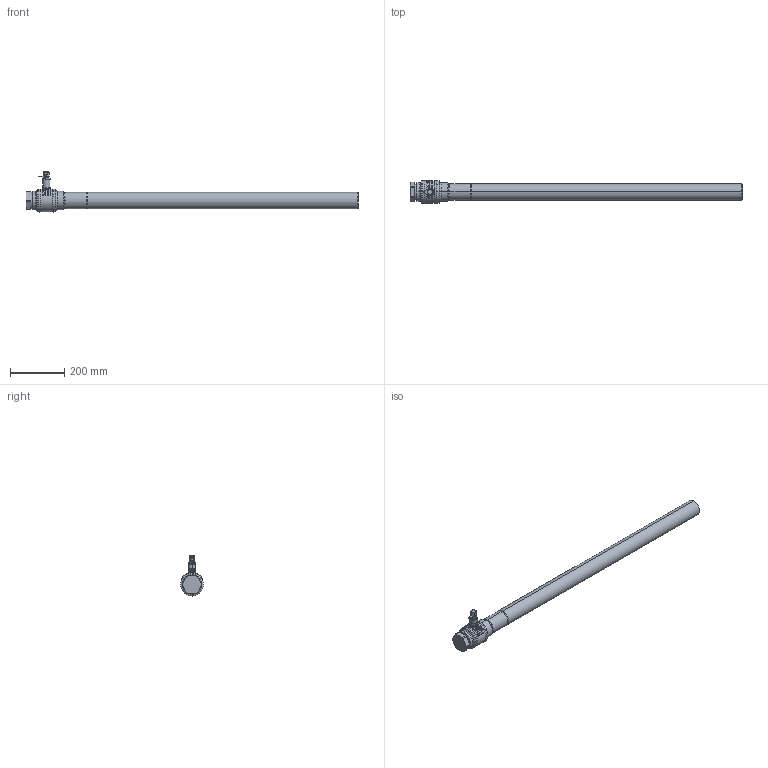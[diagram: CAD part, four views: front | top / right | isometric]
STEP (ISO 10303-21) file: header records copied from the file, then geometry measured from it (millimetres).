
FILE_DESCRIPTION((''),'2;1');
FILE_NAME('KHMO-ELE-50R40-SZ-SKT','2024-04-17T12:54:59',('jeitlers'),('KLINGER'),'CREO PARAMETRIC BY PTC INC, 2023014','CREO PARAMETRIC BY PTC INC, 2023014','');
FILE_SCHEMA(('CONFIG_CONTROL_DESIGN'));
Length unit declared in the file: millimetre
Products named in the file (1): KHMO-ELE-50R40-SZ-SKT
Bounding box: 1225 x 84.45 x 147.72 mm (x, y, z)
Volume: 1026227.5 mm3; surface area: 505151.4 mm2
Topology: 1 solids, 1 shells, 551 faces, 1260 edges, 745 vertices
Faces by surface type: cylinder 178, plane 111, cone 110, torus 106, bspline 44, sphere 2
Entity records: 24883 total; most frequent: CARTESIAN_POINT 12466, DIRECTION 2751, ORIENTED_EDGE 2516, EDGE_CURVE 1258, AXIS2_PLACEMENT_3D 1162, VERTEX_POINT 745, CIRCLE 655, EDGE_LOOP 593
